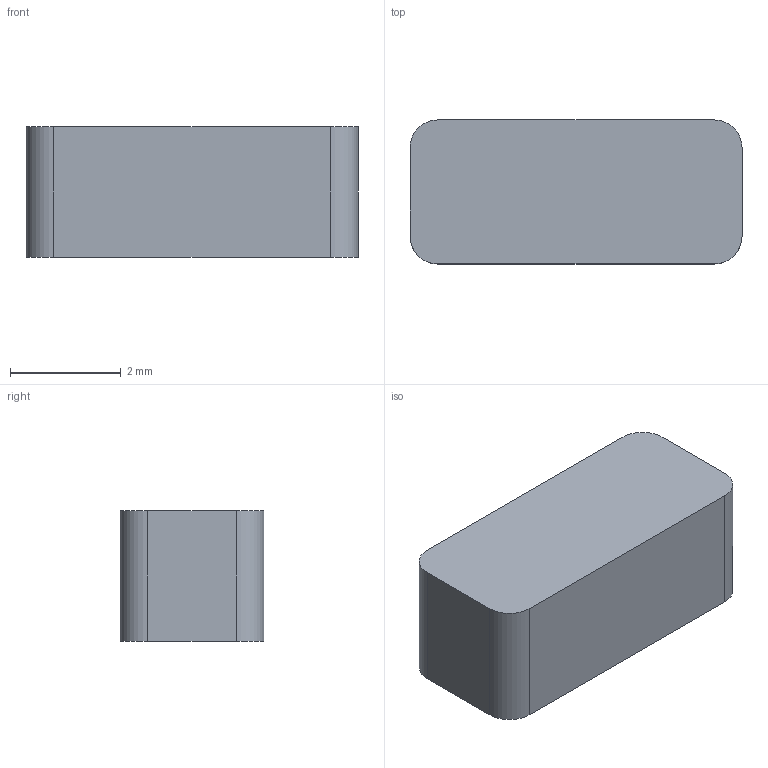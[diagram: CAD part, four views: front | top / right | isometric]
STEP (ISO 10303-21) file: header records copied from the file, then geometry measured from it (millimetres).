
FILE_DESCRIPTION(('Open CASCADE Model'),'2;1');
FILE_NAME('Open CASCADE Shape Model','2026-10-02T16:25:58',('Author'),( 'Open CASCADE'),'Open CASCADE STEP processor 7.9','Open CASCADE 7.9' ,'Unknown');
FILE_SCHEMA(('AUTOMOTIVE_DESIGN { 1 0 10303 214 1 1 1 1 }'));
Length unit declared in the file: millimetre
Products named in the file (1): Open CASCADE STEP translator 7.9 2
Bounding box: 6 x 2.6 x 2.35 mm (x, y, z)
Volume: 36.2 mm3; surface area: 69.2 mm2
Topology: 1 solids, 1 shells, 10 faces, 24 edges, 16 vertices
Faces by surface type: plane 6, cylinder 4
Entity records: 630 total; most frequent: CARTESIAN_POINT 123, DIRECTION 98, LINE 56, VECTOR 56, ORIENTED_EDGE 48, PCURVE 48, DEFINITIONAL_REPRESENTATION 48, EDGE_CURVE 24
